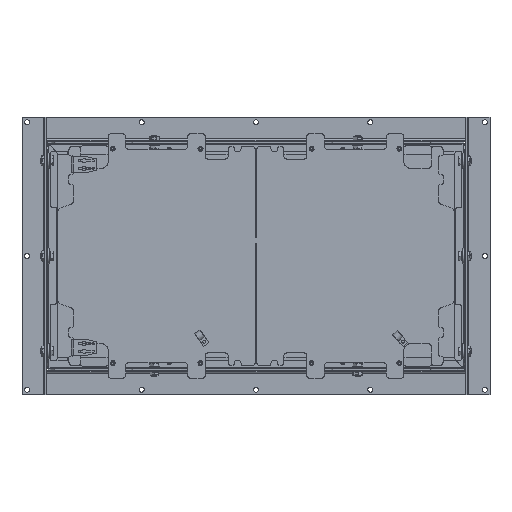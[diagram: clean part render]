
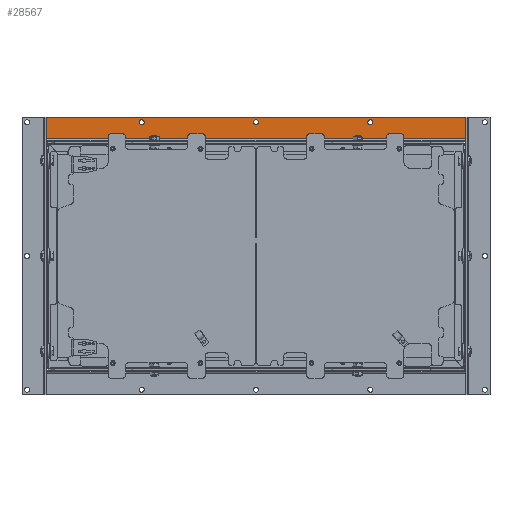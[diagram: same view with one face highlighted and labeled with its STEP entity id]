
A CAD part, front view. The second image highlights one B-rep face of the part: STEP entity #28567.
In plain terms, the highlighted planar face has unit normal (0, -1, 0).
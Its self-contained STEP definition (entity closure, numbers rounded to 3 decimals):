
#1223 = CARTESIAN_POINT ( 'NONE',  ( 330.5, 1., 184.5 ) ) ;
#4761 = FACE_BOUND ( 'NONE', #113251, .T. ) ;
#5114 = VERTEX_POINT ( 'NONE', #13920 ) ;
#8842 = VERTEX_POINT ( 'NONE', #82347 ) ;
#8980 = ORIENTED_EDGE ( 'NONE', *, *, #78126, .T. ) ;
#11498 = CARTESIAN_POINT ( 'NONE',  ( 180., 1., 210.5 ) ) ;
#12268 = DIRECTION ( 'NONE',  ( 0., 1., 0. ) ) ;
#13916 = CARTESIAN_POINT ( 'NONE',  ( 0., 1., 206.5 ) ) ;
#13920 = CARTESIAN_POINT ( 'NONE',  ( -180., 1., 206.5 ) ) ;
#14374 = CARTESIAN_POINT ( 'NONE',  ( -180., 1., 210.5 ) ) ;
#14823 = DIRECTION ( 'NONE',  ( 0., 1., 0. ) ) ;
#16564 = ORIENTED_EDGE ( 'NONE', *, *, #103931, .T. ) ;
#16763 = AXIS2_PLACEMENT_3D ( 'NONE', #11498, #12268, #109292 ) ;
#18666 = ORIENTED_EDGE ( 'NONE', *, *, #89301, .F. ) ;
#19015 = DIRECTION ( 'NONE',  ( -1., 0., 0. ) ) ;
#21154 = CARTESIAN_POINT ( 'NONE',  ( -180., 1., 214.5 ) ) ;
#21490 = CARTESIAN_POINT ( 'NONE',  ( -330.5, 1., 218.5 ) ) ;
#24314 = AXIS2_PLACEMENT_3D ( 'NONE', #88843, #43681, #77017 ) ;
#24742 = EDGE_CURVE ( 'NONE', #5114, #76230, #31880, .T. ) ;
#26209 = LINE ( 'NONE', #1223, #69736 ) ;
#27393 = DIRECTION ( 'NONE',  ( 0., 0., -1. ) ) ;
#27584 = PLANE ( 'NONE',  #83828 ) ;
#28567 = ADVANCED_FACE ( 'NONE', ( #63824, #4761, #94749, #76421 ), #27584, .T. ) ;
#31307 = VECTOR ( 'NONE', #103685, 1000. ) ;
#31804 = CARTESIAN_POINT ( 'NONE',  ( 0., 1., 214.5 ) ) ;
#31880 = CIRCLE ( 'NONE', #83936, 4. ) ;
#33935 = CARTESIAN_POINT ( 'NONE',  ( -330.5, 1., 218.5 ) ) ;
#35572 = EDGE_LOOP ( 'NONE', ( #62024, #61050 ) ) ;
#36470 = CARTESIAN_POINT ( 'NONE',  ( 330.5, 1., 218.5 ) ) ;
#37204 = VERTEX_POINT ( 'NONE', #62828 ) ;
#37797 = DIRECTION ( 'NONE',  ( 0., -1., 0. ) ) ;
#39601 = DIRECTION ( 'NONE',  ( 0., 0., 1. ) ) ;
#40892 = DIRECTION ( 'NONE',  ( 0., 1., 0. ) ) ;
#41097 = LINE ( 'NONE', #77266, #31307 ) ;
#41505 = CARTESIAN_POINT ( 'NONE',  ( 0., 1., 210.5 ) ) ;
#41717 = CARTESIAN_POINT ( 'NONE',  ( 330.5, 1., 218.5 ) ) ;
#42047 = DIRECTION ( 'NONE',  ( 0., 0., 1. ) ) ;
#42356 = VERTEX_POINT ( 'NONE', #31804 ) ;
#43681 = DIRECTION ( 'NONE',  ( 0., 1., 0. ) ) ;
#46299 = CARTESIAN_POINT ( 'NONE',  ( 180., 1., 210.5 ) ) ;
#47330 = VECTOR ( 'NONE', #27393, 1000. ) ;
#47729 = VERTEX_POINT ( 'NONE', #33935 ) ;
#48897 = DIRECTION ( 'NONE',  ( 0., 1., 0. ) ) ;
#52184 = EDGE_CURVE ( 'NONE', #76230, #5114, #84548, .T. ) ;
#55365 = DIRECTION ( 'NONE',  ( 0., 0., -1. ) ) ;
#55630 = LINE ( 'NONE', #21490, #69693 ) ;
#55753 = ORIENTED_EDGE ( 'NONE', *, *, #57514, .F. ) ;
#56486 = CIRCLE ( 'NONE', #82773, 4. ) ;
#57514 = EDGE_CURVE ( 'NONE', #8842, #47729, #55630, .T. ) ;
#57606 = CARTESIAN_POINT ( 'NONE',  ( 180., 1., 214.5 ) ) ;
#58559 = EDGE_LOOP ( 'NONE', ( #55753, #90170, #68104, #18666 ) ) ;
#58603 = CARTESIAN_POINT ( 'NONE',  ( 330.5, 1., 184.5 ) ) ;
#61050 = ORIENTED_EDGE ( 'NONE', *, *, #24742, .T. ) ;
#62024 = ORIENTED_EDGE ( 'NONE', *, *, #52184, .T. ) ;
#62828 = CARTESIAN_POINT ( 'NONE',  ( 180., 1., 206.5 ) ) ;
#63824 = FACE_BOUND ( 'NONE', #35572, .T. ) ;
#64727 = VERTEX_POINT ( 'NONE', #41717 ) ;
#66111 = ORIENTED_EDGE ( 'NONE', *, *, #107247, .T. ) ;
#66358 = AXIS2_PLACEMENT_3D ( 'NONE', #41505, #14823, #68126 ) ;
#66620 = EDGE_CURVE ( 'NONE', #64727, #96476, #71120, .T. ) ;
#66778 = CIRCLE ( 'NONE', #16763, 4. ) ;
#67407 = EDGE_CURVE ( 'NONE', #73267, #37204, #66778, .T. ) ;
#68104 = ORIENTED_EDGE ( 'NONE', *, *, #66620, .F. ) ;
#68126 = DIRECTION ( 'NONE',  ( 0., 0., 1. ) ) ;
#69693 = VECTOR ( 'NONE', #39601, 1000. ) ;
#69736 = VECTOR ( 'NONE', #19015, 1000. ) ;
#71120 = LINE ( 'NONE', #36470, #47330 ) ;
#73267 = VERTEX_POINT ( 'NONE', #57606 ) ;
#75913 = DIRECTION ( 'NONE',  ( 0., 0., 1. ) ) ;
#76230 = VERTEX_POINT ( 'NONE', #21154 ) ;
#76421 = FACE_OUTER_BOUND ( 'NONE', #58559, .T. ) ;
#77017 = DIRECTION ( 'NONE',  ( 0., 0., 1. ) ) ;
#77266 = CARTESIAN_POINT ( 'NONE',  ( -330.5, 1., 218.5 ) ) ;
#78126 = EDGE_CURVE ( 'NONE', #37204, #73267, #56486, .T. ) ;
#78280 = CIRCLE ( 'NONE', #24314, 4. ) ;
#78715 = ORIENTED_EDGE ( 'NONE', *, *, #67407, .T. ) ;
#78919 = EDGE_CURVE ( 'NONE', #96476, #8842, #26209, .T. ) ;
#81459 = CIRCLE ( 'NONE', #66358, 4. ) ;
#82347 = CARTESIAN_POINT ( 'NONE',  ( -330.5, 1., 184.5 ) ) ;
#82773 = AXIS2_PLACEMENT_3D ( 'NONE', #46299, #116293, #109197 ) ;
#83828 = AXIS2_PLACEMENT_3D ( 'NONE', #100149, #37797, #55365 ) ;
#83936 = AXIS2_PLACEMENT_3D ( 'NONE', #14374, #48897, #75913 ) ;
#84548 = CIRCLE ( 'NONE', #94400, 4. ) ;
#88843 = CARTESIAN_POINT ( 'NONE',  ( 0., 1., 210.5 ) ) ;
#89301 = EDGE_CURVE ( 'NONE', #47729, #64727, #41097, .T. ) ;
#90170 = ORIENTED_EDGE ( 'NONE', *, *, #78919, .F. ) ;
#94400 = AXIS2_PLACEMENT_3D ( 'NONE', #111609, #40892, #42047 ) ;
#94749 = FACE_BOUND ( 'NONE', #105011, .T. ) ;
#96476 = VERTEX_POINT ( 'NONE', #58603 ) ;
#100149 = CARTESIAN_POINT ( 'NONE',  ( -330.5, 1., 218.5 ) ) ;
#103685 = DIRECTION ( 'NONE',  ( 1., 0., 0. ) ) ;
#103931 = EDGE_CURVE ( 'NONE', #107715, #42356, #78280, .T. ) ;
#105011 = EDGE_LOOP ( 'NONE', ( #66111, #16564 ) ) ;
#107247 = EDGE_CURVE ( 'NONE', #42356, #107715, #81459, .T. ) ;
#107715 = VERTEX_POINT ( 'NONE', #13916 ) ;
#109197 = DIRECTION ( 'NONE',  ( 0., 0., 1. ) ) ;
#109292 = DIRECTION ( 'NONE',  ( 0., 0., 1. ) ) ;
#111609 = CARTESIAN_POINT ( 'NONE',  ( -180., 1., 210.5 ) ) ;
#113251 = EDGE_LOOP ( 'NONE', ( #78715, #8980 ) ) ;
#116293 = DIRECTION ( 'NONE',  ( 0., 1., 0. ) ) ;
